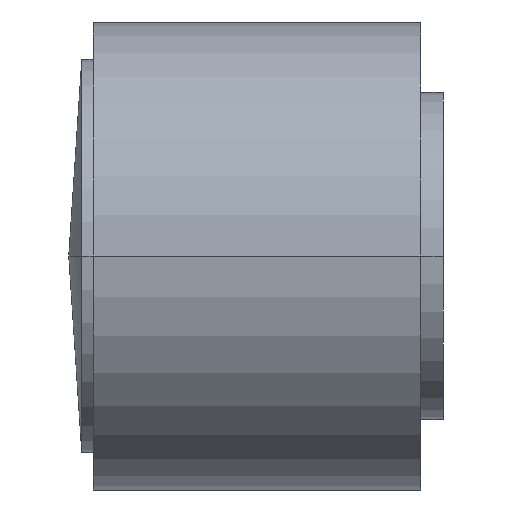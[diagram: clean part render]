
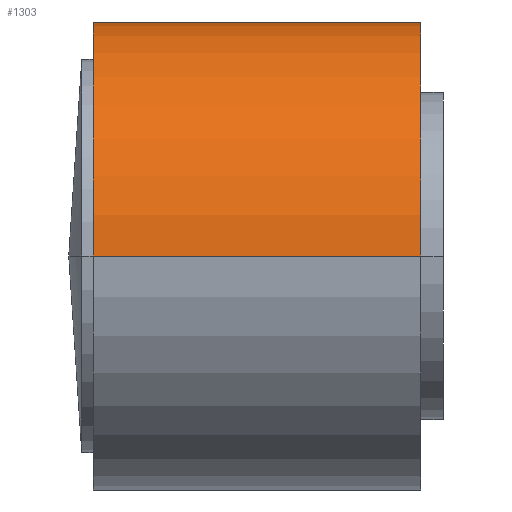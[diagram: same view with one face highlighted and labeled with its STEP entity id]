
A CAD part, left-side view. The second image highlights one B-rep face of the part: STEP entity #1303.
In plain terms, the highlighted cylindrical face has radius 15.875 mm (diameter 31.75 mm), a partial arc.
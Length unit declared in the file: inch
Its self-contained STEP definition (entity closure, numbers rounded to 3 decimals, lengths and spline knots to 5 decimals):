
#139 = CARTESIAN_POINT ( 'NONE',  ( 0.61374, -0.0275, 0.11811 ) ) ;
#149 = CARTESIAN_POINT ( 'NONE',  ( 0.61374, -0.01968, 0.11811 ) ) ;
#230 = AXIS2_PLACEMENT_3D ( 'NONE', #1710, #4501, #4922 ) ;
#238 = CARTESIAN_POINT ( 'NONE',  ( 0.62485, 0.08985, 0.01547 ) ) ;
#294 = VERTEX_POINT ( 'NONE', #4144 ) ;
#303 = DIRECTION ( 'NONE',  ( 0., 1., 0. ) ) ;
#418 = VERTEX_POINT ( 'NONE', #527 ) ;
#520 = CARTESIAN_POINT ( 'NONE',  ( 0.61446, 0.00328, 0.11429 ) ) ;
#527 = CARTESIAN_POINT ( 'NONE',  ( 0.625, 0.4325, 0. ) ) ;
#603 = CYLINDRICAL_SURFACE ( 'NONE', #1415, 0.625 ) ;
#606 = EDGE_LOOP ( 'NONE', ( #3027, #3021, #1060, #644, #2095, #4219, #3460 ) ) ;
#644 = ORIENTED_EDGE ( 'NONE', *, *, #1736, .F. ) ;
#649 = VERTEX_POINT ( 'NONE', #1587 ) ;
#804 = VECTOR ( 'NONE', #2035, 39.37008 ) ;
#809 = CARTESIAN_POINT ( 'NONE',  ( 0.625, 0.09061, 0. ) ) ;
#829 = CARTESIAN_POINT ( 'NONE',  ( 0.61794, 0.0452, 0.09435 ) ) ;
#902 = CARTESIAN_POINT ( 'NONE',  ( 0.61389, -0.01196, 0.11734 ) ) ;
#939 = DIRECTION ( 'NONE',  ( 0., 1., 0. ) ) ;
#956 = EDGE_CURVE ( 'NONE', #3357, #1616, #1391, .T. ) ;
#991 = DIRECTION ( 'NONE',  ( -1., 0., 0. ) ) ;
#1021 = EDGE_CURVE ( 'NONE', #294, #418, #5023, .T. ) ;
#1060 = ORIENTED_EDGE ( 'NONE', *, *, #4398, .F. ) ;
#1303 = ADVANCED_FACE ( 'NONE', ( #1980 ), #603, .T. ) ;
#1367 = EDGE_CURVE ( 'NONE', #649, #294, #2870, .T. ) ;
#1369 = AXIS2_PLACEMENT_3D ( 'NONE', #4745, #4699, #991 ) ;
#1391 = LINE ( 'NONE', #3750, #2411 ) ;
#1415 = AXIS2_PLACEMENT_3D ( 'NONE', #1559, #939, #4238 ) ;
#1549 = CARTESIAN_POINT ( 'NONE',  ( 0.625, -0.14561, 0. ) ) ;
#1559 = CARTESIAN_POINT ( 'NONE',  ( 0., 2.93711, 0. ) ) ;
#1587 = CARTESIAN_POINT ( 'NONE',  ( -0.625, -0.4425, 0. ) ) ;
#1616 = VERTEX_POINT ( 'NONE', #1549 ) ;
#1710 = CARTESIAN_POINT ( 'NONE',  ( 0., 0.4325, 0. ) ) ;
#1736 = EDGE_CURVE ( 'NONE', #1941, #3111, #3715, .T. ) ;
#1766 = CARTESIAN_POINT ( 'NONE',  ( 0.62087, 0.06643, 0.07201 ) ) ;
#1941 = VERTEX_POINT ( 'NONE', #3271 ) ;
#1946 = VECTOR ( 'NONE', #303, 39.37008 ) ;
#1980 = FACE_OUTER_BOUND ( 'NONE', #606, .T. ) ;
#2035 = DIRECTION ( 'NONE',  ( 0., 1., 0. ) ) ;
#2042 = CARTESIAN_POINT ( 'NONE',  ( 0.61489, 0.01076, 0.11201 ) ) ;
#2081 = CARTESIAN_POINT ( 'NONE',  ( -0.625, 2.93711, 0. ) ) ;
#2095 = ORIENTED_EDGE ( 'NONE', *, *, #2673, .T. ) ;
#2134 = CARTESIAN_POINT ( 'NONE',  ( 0.625, -0.14561, 0. ) ) ;
#2138 = CARTESIAN_POINT ( 'NONE',  ( 0.625, -0.14561, 0.00773 ) ) ;
#2145 = CARTESIAN_POINT ( 'NONE',  ( 0.62486, -0.14486, 0.0154 ) ) ;
#2150 = CARTESIAN_POINT ( 'NONE',  ( 0.62429, -0.14183, 0.03066 ) ) ;
#2158 = CARTESIAN_POINT ( 'NONE',  ( 0.62388, -0.13955, 0.03813 ) ) ;
#2160 = CARTESIAN_POINT ( 'NONE',  ( 0.62388, 0.08455, 0.03812 ) ) ;
#2162 = CARTESIAN_POINT ( 'NONE',  ( 0.62285, -0.13366, 0.05234 ) ) ;
#2169 = CARTESIAN_POINT ( 'NONE',  ( 0.62222, -0.13, 0.05919 ) ) ;
#2173 = CARTESIAN_POINT ( 'NONE',  ( 0.62086, -0.12137, 0.07211 ) ) ;
#2183 = CARTESIAN_POINT ( 'NONE',  ( 0.62013, -0.11648, 0.07804 ) ) ;
#2211 = CARTESIAN_POINT ( 'NONE',  ( 0.61867, -0.10562, 0.08892 ) ) ;
#2233 = CARTESIAN_POINT ( 'NONE',  ( 0.61792, -0.09956, 0.0939 ) ) ;
#2235 = CARTESIAN_POINT ( 'NONE',  ( 0.61656, -0.08673, 0.10248 ) ) ;
#2255 = CARTESIAN_POINT ( 'NONE',  ( 0.61593, -0.07995, 0.10611 ) ) ;
#2272 = CARTESIAN_POINT ( 'NONE',  ( 0.61488, -0.06565, 0.11205 ) ) ;
#2282 = CARTESIAN_POINT ( 'NONE',  ( 0.61446, -0.05814, 0.11433 ) ) ;
#2299 = CARTESIAN_POINT ( 'NONE',  ( 0.61389, -0.04302, 0.11734 ) ) ;
#2365 = CARTESIAN_POINT ( 'NONE',  ( 0.61374, -0.03532, 0.11811 ) ) ;
#2394 = CARTESIAN_POINT ( 'NONE',  ( 0.625, -0.4425, 0. ) ) ;
#2411 = VECTOR ( 'NONE', #4033, 39.37008 ) ;
#2673 = EDGE_CURVE ( 'NONE', #1941, #418, #4772, .T. ) ;
#2866 = CARTESIAN_POINT ( 'NONE',  ( 0.61374, -0.0275, 0.11811 ) ) ;
#2870 = LINE ( 'NONE', #2081, #1946 ) ;
#2891 = EDGE_CURVE ( 'NONE', #649, #3357, #3888, .T. ) ;
#3021 = ORIENTED_EDGE ( 'NONE', *, *, #956, .T. ) ;
#3027 = ORIENTED_EDGE ( 'NONE', *, *, #2891, .T. ) ;
#3111 = VERTEX_POINT ( 'NONE', #139 ) ;
#3271 = CARTESIAN_POINT ( 'NONE',  ( 0.625, 0.09061, 0. ) ) ;
#3357 = VERTEX_POINT ( 'NONE', #2394 ) ;
#3460 = ORIENTED_EDGE ( 'NONE', *, *, #1367, .F. ) ;
#3639 = CARTESIAN_POINT ( 'NONE',  ( 0.625, 2.93711, 0. ) ) ;
#3715 = B_SPLINE_CURVE_WITH_KNOTS ( 'NONE', 3,
 ( #809, #4740, #238, #4529, #2160, #3960, #4329, #1766, #4201, #829, #4065, #2042, #520, #902, #149, #2866 ),
 .UNSPECIFIED., .F., .F.,
 ( 4, 2, 2, 2, 2, 2, 2, 4 ),
 ( 0.0141, 0.01469, 0.01528, 0.01586, 0.01645, 0.01762, 0.01821, 0.0188 ),
 .UNSPECIFIED. ) ;
#3750 = CARTESIAN_POINT ( 'NONE',  ( 0.625, 2.93711, 0. ) ) ;
#3888 = CIRCLE ( 'NONE', #1369, 0.625 ) ;
#3960 = CARTESIAN_POINT ( 'NONE',  ( 0.62284, 0.07864, 0.05239 ) ) ;
#3999 = CARTESIAN_POINT ( 'NONE',  ( 0.61374, -0.0275, 0.11811 ) ) ;
#4033 = DIRECTION ( 'NONE',  ( 0., 1., 0. ) ) ;
#4065 = CARTESIAN_POINT ( 'NONE',  ( 0.61646, 0.03206, 0.10315 ) ) ;
#4144 = CARTESIAN_POINT ( 'NONE',  ( -0.625, 0.4325, 0. ) ) ;
#4201 = CARTESIAN_POINT ( 'NONE',  ( 0.62013, 0.06147, 0.07806 ) ) ;
#4219 = ORIENTED_EDGE ( 'NONE', *, *, #1021, .F. ) ;
#4238 = DIRECTION ( 'NONE',  ( -1., 0., 0. ) ) ;
#4329 = CARTESIAN_POINT ( 'NONE',  ( 0.62223, 0.07501, 0.05917 ) ) ;
#4398 = EDGE_CURVE ( 'NONE', #3111, #1616, #4560, .T. ) ;
#4501 = DIRECTION ( 'NONE',  ( 0., 1., 0. ) ) ;
#4529 = CARTESIAN_POINT ( 'NONE',  ( 0.6243, 0.08684, 0.0306 ) ) ;
#4560 = B_SPLINE_CURVE_WITH_KNOTS ( 'NONE', 3,
 ( #3999, #2365, #2299, #2282, #2272, #2255, #2235, #2233, #2211, #2183, #2173, #2169, #2162, #2158, #2150, #2145, #2138, #2134 ),
 .UNSPECIFIED., .F., .F.,
 ( 4, 2, 2, 2, 2, 2, 2, 2, 4 ),
 ( 0., 0.00059, 0.00118, 0.00176, 0.00235, 0.00294, 0.00353, 0.00411, 0.0047 ),
 .UNSPECIFIED. ) ;
#4699 = DIRECTION ( 'NONE',  ( 0., 1., 0. ) ) ;
#4740 = CARTESIAN_POINT ( 'NONE',  ( 0.625, 0.09061, 0.0078 ) ) ;
#4745 = CARTESIAN_POINT ( 'NONE',  ( 0., -0.4425, 0. ) ) ;
#4772 = LINE ( 'NONE', #3639, #804 ) ;
#4922 = DIRECTION ( 'NONE',  ( 0., 0., -1. ) ) ;
#5023 = CIRCLE ( 'NONE', #230, 0.625 ) ;
